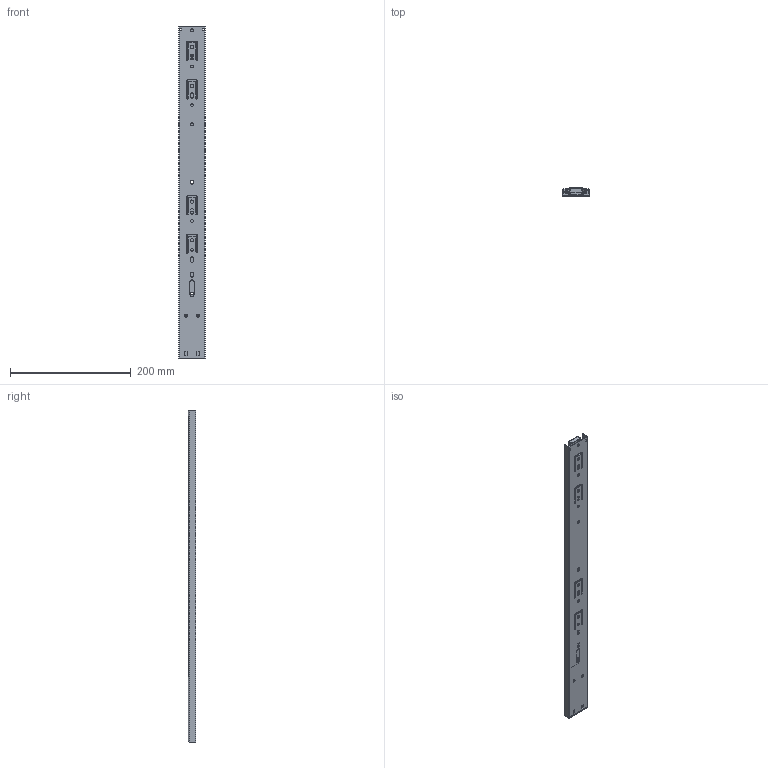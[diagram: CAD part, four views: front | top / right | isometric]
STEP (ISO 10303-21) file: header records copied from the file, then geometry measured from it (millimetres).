
FILE_DESCRIPTION(/* description */ (''),/* implementation_level */ '2;1');
FILE_NAME(/* name */ 'C:\Users\dmitruk\Documents\WORK\НАПРАВЛЯЮЩИЕ\Шариковые\Доводчик\h45 L550 с доводчиком AKS.stp',/* time_stamp */ '2022-04-19T17:46:26+03:00',/* author */ ('dmitruk'),/* organization */ ('AKS'),/* preprocessor_version */ 'ST-DEVELOPER v16.5',/* originating_system */ 'Autodesk Inventor 2017',/* authorisation */ '');
FILE_SCHEMA (('AUTOMOTIVE_DESIGN { 1 0 10303 214 3 1 1 }'));
Length unit declared in the file: millimetre
Products named in the file (6): h45 L550 с \X2\0434043E0432043E043404470438
043A043E043C\X0\ AKS; h45 L-5500 AKS_11довод; h45 L-550 AKS_12довод; h45 L-500_13; h45 L-50 AKS_довод; Доводчик
Assembly tree (5 placements, depth 2):
  h45 L550 с \X2\0434043E0432043E043404470438
043A043E043C\X0\ AKS
    h45 L-5500 AKS_11довод
    h45 L-550 AKS_12довод
    h45 L-500_13
    h45 L-50 AKS_довод
    Доводчик
Bounding box: 44 x 13 x 550 mm (x, y, z)
Volume: 98369.6 mm3; surface area: 175423.2 mm2
Topology: 5 solids, 5 shells, 876 faces, 2573 edges, 1675 vertices
Faces by surface type: plane 506, cylinder 306, sphere 64
Full cylindrical faces by diameter (mm): 4.5 x12, 5 x1, 5.5 x4, 6 x1
Entity records: 29821 total; most frequent: CARTESIAN_POINT 5439, ORIENTED_EDGE 5106, DIRECTION 5064, EDGE_CURVE 2553, LINE 1748, VECTOR 1748, VERTEX_POINT 1673, AXIS2_PLACEMENT_3D 1658
